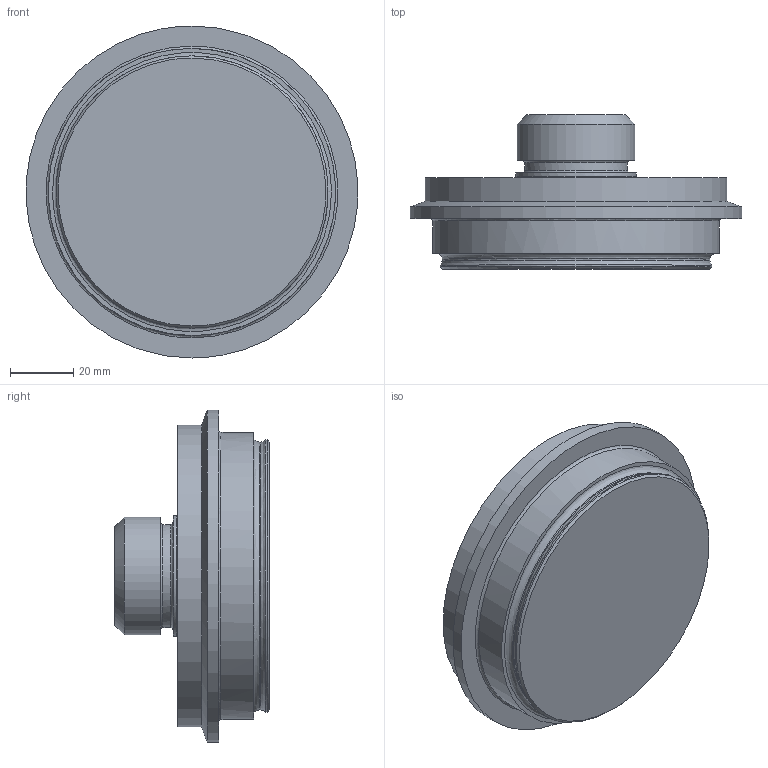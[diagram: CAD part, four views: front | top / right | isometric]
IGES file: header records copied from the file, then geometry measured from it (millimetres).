
Global section: file name: 102409 3; native system: Autodesk Inventor 2020; preprocessor: unknown; author: H7M44K; date: 20210423.111844; units: inch
Bounding box: 104.64 x 48.77 x 104.78 mm (x, y, z)
Volume: 217624.2 mm3; surface area: 27564.7 mm2
Topology: 1 solids, 1 shells, 24 faces, 65 edges, 48 vertices
Faces by surface type: bspline 24
